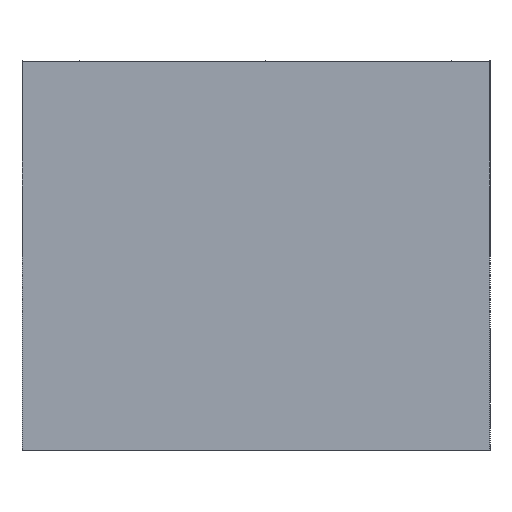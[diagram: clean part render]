
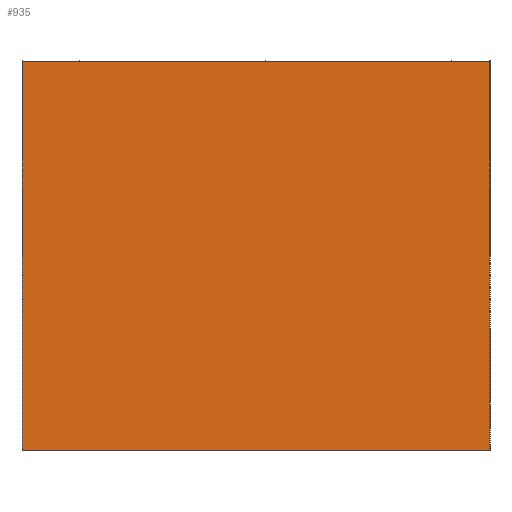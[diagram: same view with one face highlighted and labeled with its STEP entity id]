
A CAD part, left-side view. The second image highlights one B-rep face of the part: STEP entity #935.
In plain terms, the highlighted planar face has unit normal (-1, 0, 0).
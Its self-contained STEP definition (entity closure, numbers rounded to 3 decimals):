
#22=DIRECTION('',(0.,0.,-1.));
#23=VECTOR('',#22,80.);
#24=CARTESIAN_POINT('',(-69.,-48.,0.));
#25=LINE('',#24,#23);
#226=DIRECTION('',(0.,0.,-1.));
#227=VECTOR('',#226,80.);
#228=CARTESIAN_POINT('',(-69.,48.,0.));
#229=LINE('',#228,#227);
#248=DIRECTION('',(0.,1.,0.));
#249=VECTOR('',#248,96.);
#250=CARTESIAN_POINT('',(-69.,-48.,-80.));
#251=LINE('',#250,#249);
#268=DIRECTION('',(0.,-1.,0.));
#269=VECTOR('',#268,96.);
#270=CARTESIAN_POINT('',(-69.,48.,0.));
#271=LINE('',#270,#269);
#450=CARTESIAN_POINT('',(-69.,-48.,0.));
#451=VERTEX_POINT('',#450);
#452=CARTESIAN_POINT('',(-69.,-48.,-80.));
#453=VERTEX_POINT('',#452);
#454=CARTESIAN_POINT('',(-69.,48.,0.));
#455=CARTESIAN_POINT('',(-69.,48.,-80.));
#456=VERTEX_POINT('',#454);
#457=VERTEX_POINT('',#455);
#922=CARTESIAN_POINT('',(-69.,0.,-80.));
#923=DIRECTION('',(-1.,0.,0.));
#924=DIRECTION('',(0.,0.,1.));
#925=AXIS2_PLACEMENT_3D('',#922,#923,#924);
#926=PLANE('',#925);
#927=ORIENTED_EDGE('',*,*,#583,.T.);
#929=ORIENTED_EDGE('',*,*,#928,.T.);
#930=ORIENTED_EDGE('',*,*,#679,.F.);
#932=ORIENTED_EDGE('',*,*,#931,.T.);
#933=EDGE_LOOP('',(#927,#929,#930,#932));
#934=FACE_OUTER_BOUND('',#933,.F.);
#583=EDGE_CURVE('',#451,#453,#25,.T.);
#679=EDGE_CURVE('',#456,#457,#229,.T.);
#928=EDGE_CURVE('',#453,#457,#251,.T.);
#931=EDGE_CURVE('',#456,#451,#271,.T.);
#935=ADVANCED_FACE('',(#934),#926,.T.);
